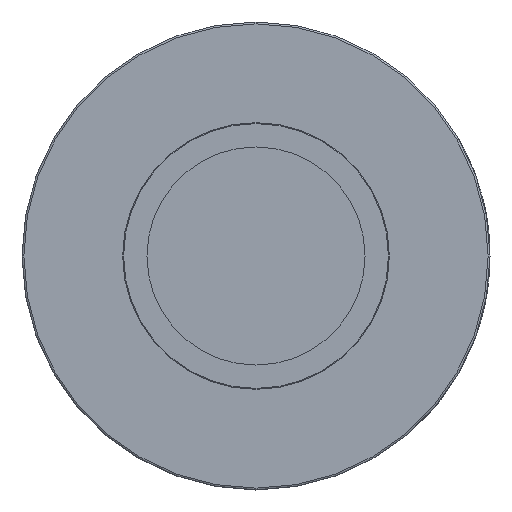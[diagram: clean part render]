
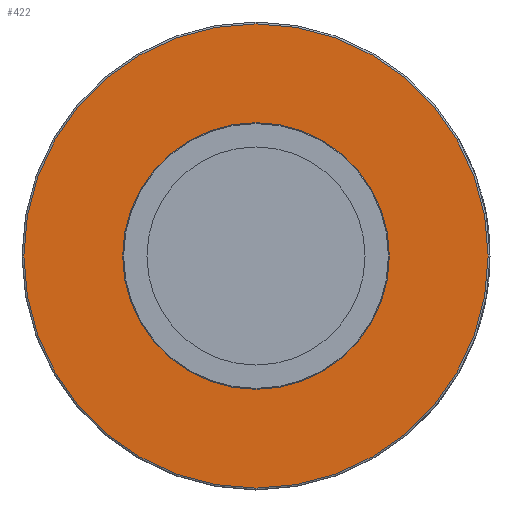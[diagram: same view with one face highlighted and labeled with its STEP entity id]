
A CAD part, left-side view. The second image highlights one B-rep face of the part: STEP entity #422.
In plain terms, the highlighted planar face has unit normal (-1, 0, 0).
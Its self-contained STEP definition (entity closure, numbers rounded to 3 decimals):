
#422 = ADVANCED_FACE( '', ( #966, #967 ), #968, .T. );
#966 = FACE_OUTER_BOUND( '', #2275, .T. );
#967 = FACE_BOUND( '', #2276, .T. );
#968 = PLANE( '', #2277 );
#2275 = EDGE_LOOP( '', ( #4356 ) );
#2276 = EDGE_LOOP( '', ( #4357 ) );
#2277 = AXIS2_PLACEMENT_3D( '', #4358, #4359, #4360 );
#4356 = ORIENTED_EDGE( '', *, *, #5821, .T. );
#4357 = ORIENTED_EDGE( '', *, *, #5822, .F. );
#4358 = CARTESIAN_POINT( '', ( 33.909, 0., 36.182 ) );
#4359 = DIRECTION( '', ( -1., 0., 0. ) );
#4360 = DIRECTION( '', ( 0., 0., 1. ) );
#5821 = EDGE_CURVE( '', #6835, #6835, #6836, .T. );
#5822 = EDGE_CURVE( '', #6837, #6837, #6838, .T. );
#6835 = VERTEX_POINT( '', #8961 );
#6836 = CIRCLE( '', #8962, 62.992 );
#6837 = VERTEX_POINT( '', #8963 );
#6838 = CIRCLE( '', #8964, 36.182 );
#8961 = CARTESIAN_POINT( '', ( 33.909, 0., 62.992 ) );
#8962 = AXIS2_PLACEMENT_3D( '', #10159, #10160, #10161 );
#8963 = CARTESIAN_POINT( '', ( 33.909, 0., 36.182 ) );
#8964 = AXIS2_PLACEMENT_3D( '', #10162, #10163, #10164 );
#10159 = CARTESIAN_POINT( '', ( 33.909, 0., 0. ) );
#10160 = DIRECTION( '', ( -1., 0., 0. ) );
#10161 = DIRECTION( '', ( 0., 0., 1. ) );
#10162 = CARTESIAN_POINT( '', ( 33.909, 0., 0. ) );
#10163 = DIRECTION( '', ( -1., 0., 0. ) );
#10164 = DIRECTION( '', ( 0., 0., 1. ) );
